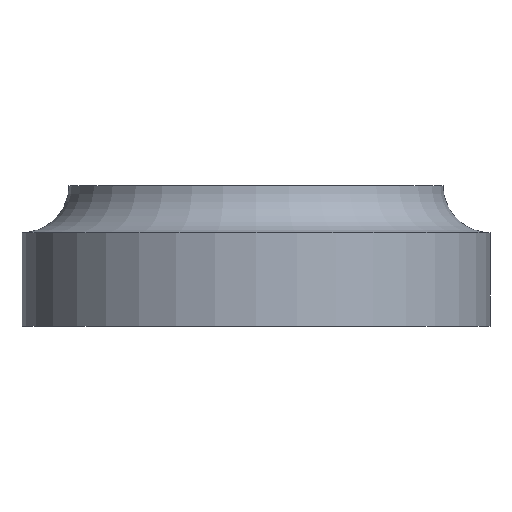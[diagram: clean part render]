
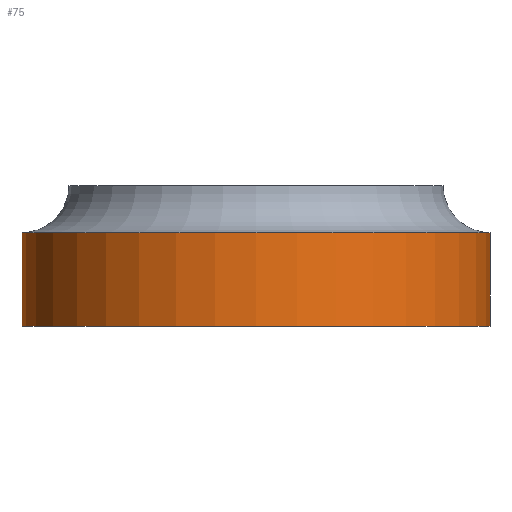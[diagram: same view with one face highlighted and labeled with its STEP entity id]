
A CAD part, front view. The second image highlights one B-rep face of the part: STEP entity #75.
In plain terms, the highlighted cylindrical face has radius 5 mm (diameter 10 mm), a partial arc.
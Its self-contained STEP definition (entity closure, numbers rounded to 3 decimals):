
#15 = VECTOR ( 'NONE', #135, 1000. ) ;
#30 = CARTESIAN_POINT ( 'NONE',  ( 0., 0., 2. ) ) ;
#31 = VERTEX_POINT ( 'NONE', #32 ) ;
#32 = CARTESIAN_POINT ( 'NONE',  ( 5., 0., 0. ) ) ;
#34 = CARTESIAN_POINT ( 'NONE',  ( 0., 0., 0. ) ) ;
#37 = EDGE_CURVE ( 'NONE', #141, #46, #126, .T. ) ;
#40 = VECTOR ( 'NONE', #186, 1000. ) ;
#45 = ORIENTED_EDGE ( 'NONE', *, *, #155, .T. ) ;
#46 = VERTEX_POINT ( 'NONE', #147 ) ;
#50 = FACE_OUTER_BOUND ( 'NONE', #125, .T. ) ;
#54 = CARTESIAN_POINT ( 'NONE',  ( 0., 0., 2. ) ) ;
#57 = CARTESIAN_POINT ( 'NONE',  ( 5., 0., 2. ) ) ;
#59 = CARTESIAN_POINT ( 'NONE',  ( -5., 0., 2. ) ) ;
#69 = AXIS2_PLACEMENT_3D ( 'NONE', #34, #137, #77 ) ;
#75 = ADVANCED_FACE ( 'NONE', ( #50 ), #129, .T. ) ;
#77 = DIRECTION ( 'NONE',  ( 1., 0., 0. ) ) ;
#86 = VERTEX_POINT ( 'NONE', #241 ) ;
#103 = CIRCLE ( 'NONE', #69, 5. ) ;
#116 = LINE ( 'NONE', #57, #15 ) ;
#119 = EDGE_CURVE ( 'NONE', #86, #31, #116, .T. ) ;
#121 = EDGE_CURVE ( 'NONE', #141, #86, #179, .T. ) ;
#125 = EDGE_LOOP ( 'NONE', ( #217, #244, #205, #45 ) ) ;
#126 = LINE ( 'NONE', #170, #40 ) ;
#129 = CYLINDRICAL_SURFACE ( 'NONE', #191, 5. ) ;
#132 = DIRECTION ( 'NONE',  ( -1., 0., 0. ) ) ;
#133 = DIRECTION ( 'NONE',  ( 1., 0., 0. ) ) ;
#135 = DIRECTION ( 'NONE',  ( 0., 0., -1. ) ) ;
#137 = DIRECTION ( 'NONE',  ( 0., 0., 1. ) ) ;
#141 = VERTEX_POINT ( 'NONE', #59 ) ;
#147 = CARTESIAN_POINT ( 'NONE',  ( -5., 0., 0. ) ) ;
#155 = EDGE_CURVE ( 'NONE', #46, #31, #103, .T. ) ;
#158 = AXIS2_PLACEMENT_3D ( 'NONE', #54, #231, #133 ) ;
#170 = CARTESIAN_POINT ( 'NONE',  ( -5., 0., 2. ) ) ;
#179 = CIRCLE ( 'NONE', #158, 5. ) ;
#186 = DIRECTION ( 'NONE',  ( 0., 0., -1. ) ) ;
#191 = AXIS2_PLACEMENT_3D ( 'NONE', #30, #204, #132 ) ;
#204 = DIRECTION ( 'NONE',  ( 0., 0., -1. ) ) ;
#205 = ORIENTED_EDGE ( 'NONE', *, *, #37, .T. ) ;
#217 = ORIENTED_EDGE ( 'NONE', *, *, #119, .F. ) ;
#231 = DIRECTION ( 'NONE',  ( 0., 0., 1. ) ) ;
#241 = CARTESIAN_POINT ( 'NONE',  ( 5., 0., 2. ) ) ;
#244 = ORIENTED_EDGE ( 'NONE', *, *, #121, .F. ) ;
